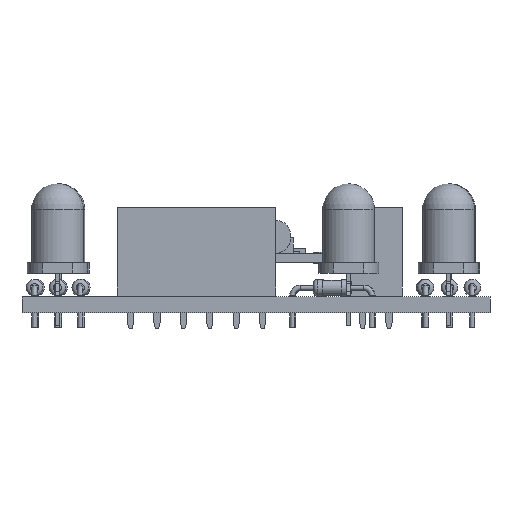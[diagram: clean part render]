
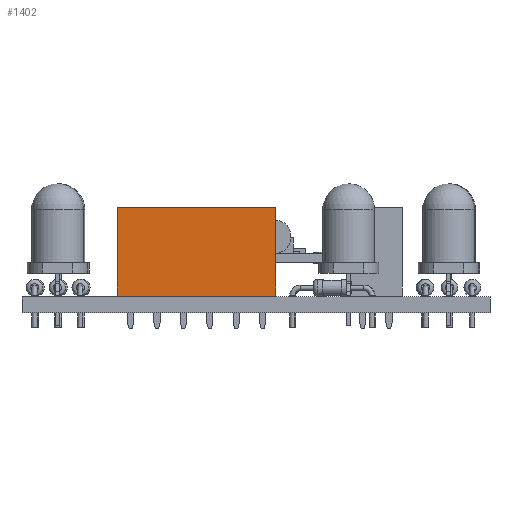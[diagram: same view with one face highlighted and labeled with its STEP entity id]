
A CAD part, left-side view. The second image highlights one B-rep face of the part: STEP entity #1402.
In plain terms, the highlighted planar face has unit normal (-1, 0, 0).
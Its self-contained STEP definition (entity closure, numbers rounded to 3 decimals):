
#579 = VERTEX_POINT('',#580);
#580 = CARTESIAN_POINT('',(-1.27,-13.97,0.));
#588 = EDGE_CURVE('',#579,#589,#591,.T.);
#589 = VERTEX_POINT('',#590);
#590 = CARTESIAN_POINT('',(-1.27,-13.97,8.5));
#591 = LINE('',#592,#593);
#592 = CARTESIAN_POINT('',(-1.27,-13.97,0.));
#593 = VECTOR('',#594,1.);
#594 = DIRECTION('',(0.,0.,1.));
#651 = VERTEX_POINT('',#652);
#652 = CARTESIAN_POINT('',(-1.27,1.27,8.5));
#658 = EDGE_CURVE('',#659,#651,#661,.T.);
#659 = VERTEX_POINT('',#660);
#660 = CARTESIAN_POINT('',(-1.27,1.27,0.));
#661 = LINE('',#662,#663);
#662 = CARTESIAN_POINT('',(-1.27,1.27,0.));
#663 = VECTOR('',#664,1.);
#664 = DIRECTION('',(0.,0.,1.));
#723 = EDGE_CURVE('',#651,#589,#724,.T.);
#724 = LINE('',#725,#726);
#725 = CARTESIAN_POINT('',(-1.27,1.27,8.5));
#726 = VECTOR('',#727,1.);
#727 = DIRECTION('',(0.,-1.,0.));
#950 = EDGE_CURVE('',#659,#579,#951,.T.);
#951 = LINE('',#952,#953);
#952 = CARTESIAN_POINT('',(-1.27,1.27,0.));
#953 = VECTOR('',#954,1.);
#954 = DIRECTION('',(0.,-1.,0.));
#1402 = ADVANCED_FACE('',(#1403),#1409,.F.);
#1403 = FACE_BOUND('',#1404,.F.);
#1404 = EDGE_LOOP('',(#1405,#1406,#1407,#1408));
#1405 = ORIENTED_EDGE('',*,*,#658,.T.);
#1406 = ORIENTED_EDGE('',*,*,#723,.T.);
#1407 = ORIENTED_EDGE('',*,*,#588,.F.);
#1408 = ORIENTED_EDGE('',*,*,#950,.F.);
#1409 = PLANE('',#1410);
#1410 = AXIS2_PLACEMENT_3D('',#1411,#1412,#1413);
#1411 = CARTESIAN_POINT('',(-1.27,1.27,0.));
#1412 = DIRECTION('',(1.,0.,0.));
#1413 = DIRECTION('',(0.,-1.,0.));
